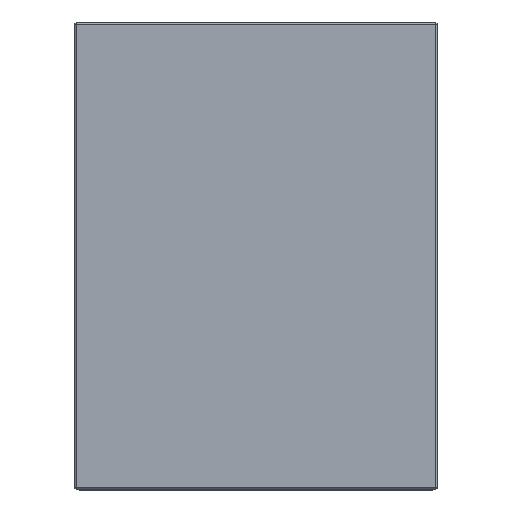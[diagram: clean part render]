
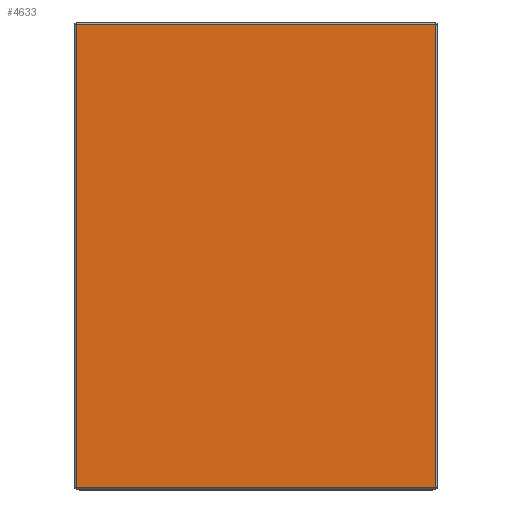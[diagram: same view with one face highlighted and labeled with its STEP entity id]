
A CAD part, top view. The second image highlights one B-rep face of the part: STEP entity #4633.
In plain terms, the highlighted planar face has unit normal (0, 0, 1).
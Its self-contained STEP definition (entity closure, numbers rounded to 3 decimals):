
#6 = AXIS2_PLACEMENT_3D ( 'NONE', #2843, #3868, #737 ) ;
#34 = VECTOR ( 'NONE', #5089, 1000. ) ;
#308 = VECTOR ( 'NONE', #1103, 1000. ) ;
#651 = ORIENTED_EDGE ( 'NONE', *, *, #5877, .T. ) ;
#737 = DIRECTION ( 'NONE',  ( -1., 0., 0. ) ) ;
#939 = LINE ( 'NONE', #6023, #4728 ) ;
#1044 = LINE ( 'NONE', #5810, #5140 ) ;
#1103 = DIRECTION ( 'NONE',  ( 1., 0., 0. ) ) ;
#1120 = EDGE_CURVE ( 'NONE', #4657, #3776, #4464, .T. ) ;
#1136 = ORIENTED_EDGE ( 'NONE', *, *, #1120, .T. ) ;
#1599 = EDGE_LOOP ( 'NONE', ( #1136, #5351, #651, #2631 ) ) ;
#1815 = VERTEX_POINT ( 'NONE', #2222 ) ;
#2205 = EDGE_CURVE ( 'NONE', #3474, #4657, #4835, .T. ) ;
#2222 = CARTESIAN_POINT ( 'NONE',  ( 386., 27., 100. ) ) ;
#2444 = DIRECTION ( 'NONE',  ( -1., 0., 0. ) ) ;
#2631 = ORIENTED_EDGE ( 'NONE', *, *, #2205, .T. ) ;
#2843 = CARTESIAN_POINT ( 'NONE',  ( 440.212, 28., 100. ) ) ;
#2867 = CARTESIAN_POINT ( 'NONE',  ( -386., -968., 100. ) ) ;
#2926 = CARTESIAN_POINT ( 'NONE',  ( -386., 27., 100. ) ) ;
#2945 = EDGE_CURVE ( 'NONE', #3776, #1815, #1044, .T. ) ;
#3474 = VERTEX_POINT ( 'NONE', #2926 ) ;
#3695 = CARTESIAN_POINT ( 'NONE',  ( 389., -968., 100. ) ) ;
#3776 = VERTEX_POINT ( 'NONE', #5685 ) ;
#3868 = DIRECTION ( 'NONE',  ( 0., 0., -1. ) ) ;
#4464 = LINE ( 'NONE', #3695, #308 ) ;
#4569 = CARTESIAN_POINT ( 'NONE',  ( -386., -971., 100. ) ) ;
#4633 = ADVANCED_FACE ( 'NONE', ( #6415 ), #4848, .F. ) ;
#4657 = VERTEX_POINT ( 'NONE', #2867 ) ;
#4728 = VECTOR ( 'NONE', #2444, 1000. ) ;
#4835 = LINE ( 'NONE', #4569, #34 ) ;
#4848 = PLANE ( 'NONE',  #6 ) ;
#5089 = DIRECTION ( 'NONE',  ( 0., -1., 0. ) ) ;
#5140 = VECTOR ( 'NONE', #6302, 1000. ) ;
#5351 = ORIENTED_EDGE ( 'NONE', *, *, #2945, .T. ) ;
#5685 = CARTESIAN_POINT ( 'NONE',  ( 386., -968., 100. ) ) ;
#5810 = CARTESIAN_POINT ( 'NONE',  ( 386., 30., 100. ) ) ;
#5877 = EDGE_CURVE ( 'NONE', #1815, #3474, #939, .T. ) ;
#6023 = CARTESIAN_POINT ( 'NONE',  ( 440.212, 27., 100. ) ) ;
#6302 = DIRECTION ( 'NONE',  ( 0., 1., 0. ) ) ;
#6415 = FACE_OUTER_BOUND ( 'NONE', #1599, .T. ) ;
